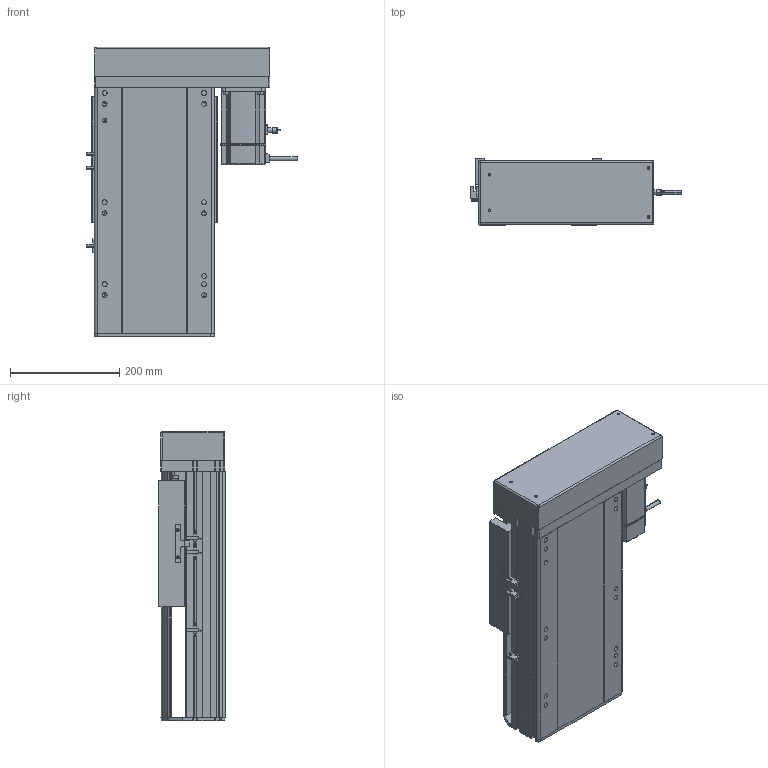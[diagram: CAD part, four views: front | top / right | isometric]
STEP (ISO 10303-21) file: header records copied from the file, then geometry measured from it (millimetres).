
FILE_DESCRIPTION (( 'STEP AP214' ), '1' );
FILE_NAME ('RTH22-XX-150-L-M75-C4.STEP', '2025-10-24T10:54:38', ( 'Microsoft' ), ( 'Microsoft' ), 'SwSTEP 2.0', 'SolidWorks 2018', '' );
FILE_SCHEMA (( 'AUTOMOTIVE_DESIGN' ));
Length unit declared in the file: millimetre
Products named in the file (10): RTH22-XX-150-L-M75-C4; N_RTH22-L-004-SFS25賑釱^RTH22-XX-XX-L-M75-C4; N_RTH22-L-011菁釱^RTH22-XX-XX-L-M75-C4; N_RTH22-GY-001耜裔^RTH22-XX-XX-L-M75-C4; N_RTH22-GY-013外置感应片^RTH22-XX-XX-L-M75-C4; N_RTH22-L-018裔赽^RTH22-XX-XX-L-M75-C4; N_RTH22-L-007奻裔^RTH22-XX-XX-L-M75-C4; N_RTH22-L-008-P75萇儂啣^RTH22-XX-XX-L-M75-C4; N_OMRON EE-SX672 传感器^RTH22-XX-XX-L-M75-C4; N_750W萇儂^RTH22-XX-XX-L-M75-C4
Assembly tree (11 placements, depth 2):
  RTH22-XX-150-L-M75-C4
    N_RTH22-L-011菁釱^RTH22-XX-XX-L-M75-C4
    N_RTH22-GY-001耜裔^RTH22-XX-XX-L-M75-C4
    N_750W萇儂^RTH22-XX-XX-L-M75-C4
    N_RTH22-L-008-P75萇儂啣^RTH22-XX-XX-L-M75-C4
    N_RTH22-L-007奻裔^RTH22-XX-XX-L-M75-C4
    N_RTH22-L-018裔赽^RTH22-XX-XX-L-M75-C4
    N_OMRON EE-SX672 传感器^RTH22-XX-XX-L-M75-C4  x3
    N_RTH22-GY-013外置感应片^RTH22-XX-XX-L-M75-C4
    N_RTH22-L-004-SFS25賑釱^RTH22-XX-XX-L-M75-C4
Bounding box: 384.7 x 122 x 529.7 mm (x, y, z)
Volume: 8972223.3 mm3; surface area: 1130693.8 mm2
Topology: 11 solids, 11 shells, 1534 faces, 4179 edges, 2701 vertices
Faces by surface type: plane 787, cylinder 422, bspline 279, cone 46
Entity records: 37703 total; most frequent: CARTESIAN_POINT 11670, ORIENTED_EDGE 5358, DIRECTION 4989, EDGE_CURVE 2679, VERTEX_POINT 1737, VECTOR 1693, LINE 1693, AXIS2_PLACEMENT_3D 1648
